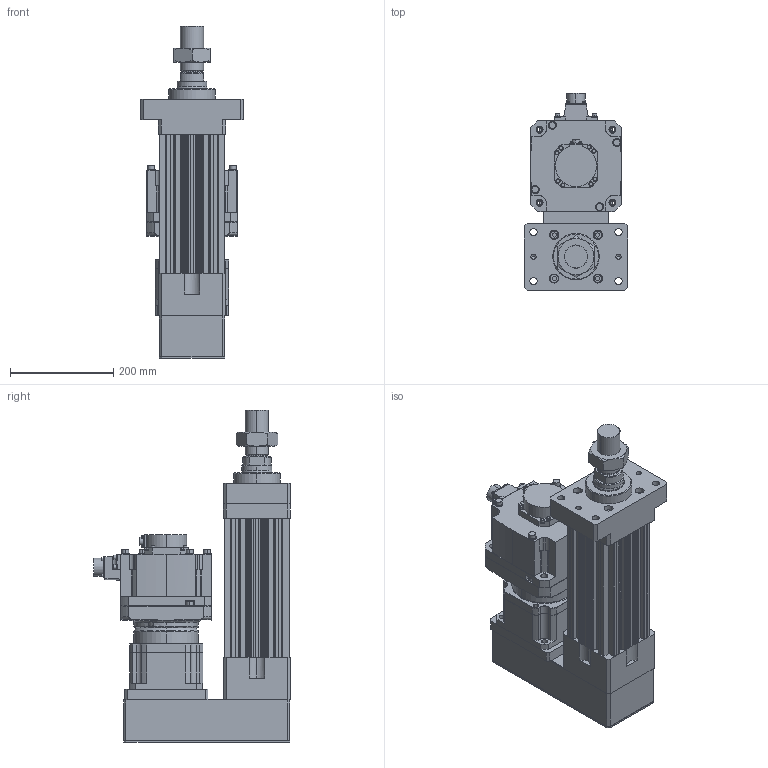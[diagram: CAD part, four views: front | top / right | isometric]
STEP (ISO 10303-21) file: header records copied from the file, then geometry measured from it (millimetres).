
FILE_DESCRIPTION (( 'STEP AP203' ), '1' );
FILE_NAME ('HES130FS(HS)-P050-W020G00-M-FMA.STEP', '2023-01-30T06:06:31', ( 'tms' ), ( '' ), 'SwSTEP 2.0', 'SolidWorks 2013', '' );
FILE_SCHEMA (( 'CONFIG_CONTROL_DESIGN' ));
Length unit declared in the file: millimetre
Products named in the file (9): P1301500001; P0403500801; HES130 ROD M ST050; AB142-003[HG-SR352]; HES130FS(HS)-P050-W020G00-M-FMA; HES130-P050-G142-FMA; HG-SR202; AB1421; M45X1.5P
Assembly tree (8 placements, depth 3):
  HES130FS(HS)-P050-W020G00-M-FMA
    HES130-P050-G142-FMA
    HES130 ROD M ST050
    M45X1.5P
    AB142-003[HG-SR352]
      AB1421
      P1301500001
      P0403500801
    HG-SR202
Bounding box: 200 x 381.85 x 644 mm (x, y, z)
Volume: 10879269.6 mm3; surface area: 1168754.5 mm2
Topology: 4 solids, 18 shells, 1401 faces, 3660 edges, 2370 vertices
Faces by surface type: cylinder 643, plane 530, cone 146, bspline 76, torus 6
Entity records: 52014 total; most frequent: CARTESIAN_POINT 16222, DIRECTION 7460, ORIENTED_EDGE 7222, EDGE_CURVE 3633, AXIS2_PLACEMENT_3D 2825, VERTEX_POINT 2370, LINE 1810, VECTOR 1810
